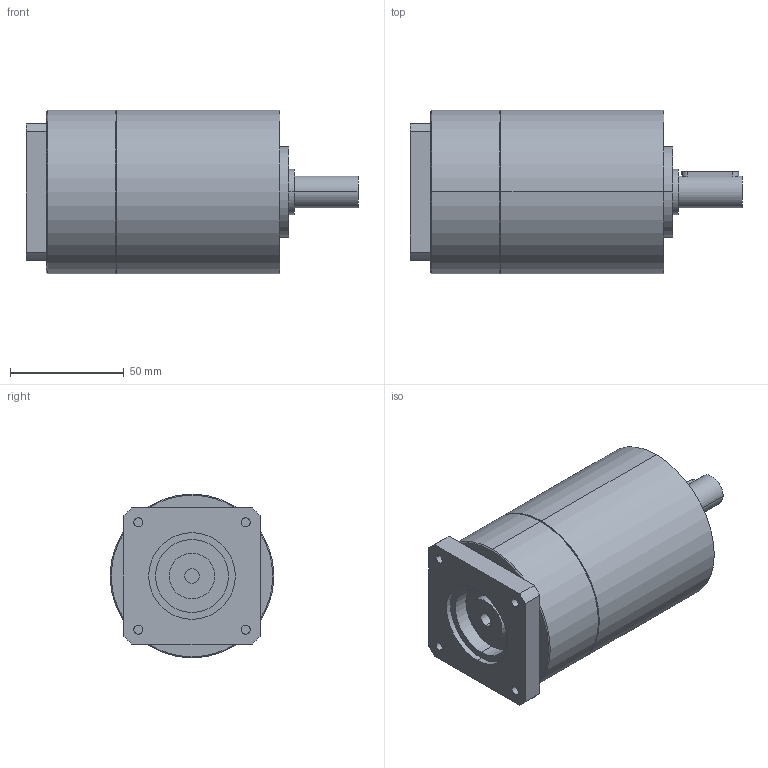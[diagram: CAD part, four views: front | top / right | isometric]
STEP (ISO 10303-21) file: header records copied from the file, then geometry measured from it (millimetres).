
FILE_DESCRIPTION(('CoCreate Modeling STEP Export'),'2;1');
FILE_NAME('GPT75_ig-9-12-16-20-25-28-35-40-50-70-100_14_B14T_6.35_P28.stp','2014-08-27T13:19:35',(''),(''),'CoCreate Modeling STEP processor for AP214 (Solid Model)','CoCreate Modeling 16.00C 25-Feb-2009 (C) Parametric Technology GmbH','');
FILE_SCHEMA(('AUTOMOTIVE_DESIGN { 1 0 10303 214 1 1 1 1 }'));
Length unit declared in the file: millimetre
Products named in the file (2): GPT75_ig-9-12-16-20-25-28-35-40-50-70-100_14_B14T_6.35_P28
Assembly tree (1 placements, depth 2):
  GPT75_ig-9-12-16-20-25-28-35-40-50-70-100_14_B14T_6.35_P28
    GPT75_ig-9-12-16-20-25-28-35-40-50-70-100_14_B14T_6.35_P28
Bounding box: 146 x 72 x 72 mm (x, y, z)
Volume: 450370.2 mm3; surface area: 38972.7 mm2
Topology: 1 solids, 1 shells, 80 faces, 182 edges, 121 vertices
Faces by surface type: cylinder 42, plane 34, cone 4
Entity records: 2269 total; most frequent: CARTESIAN_POINT 677, ORIENTED_EDGE 364, DIRECTION 268, EDGE_CURVE 182, VERTEX_POINT 121, AXIS2_PLACEMENT_3D 100, EDGE_LOOP 97, FACE_OUTER_BOUND 80
